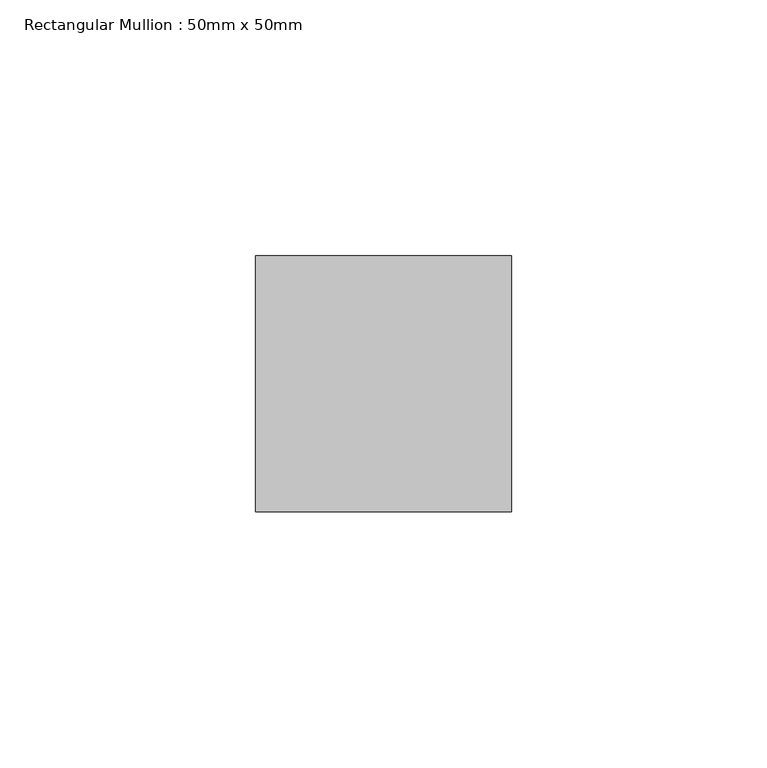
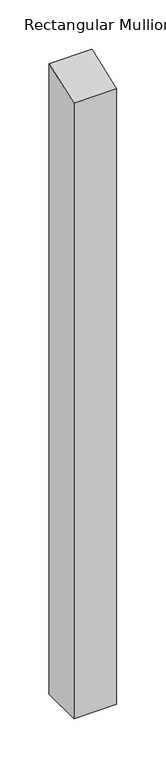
"""IFC4 building model written with IfcOpenShell, lengths in millimetres: member geometry, Rectangular Mullion : 50mm x 50mm."""

import ifcopenshell
import ifcopenshell.guid

model = None  # the IFC model being written
_history = None  # IfcOwnerHistory: only IFC2X3 demands one
_inside = {}  # id of a spatial element -> (the spatial element, [elements in it])
_under = {}  # id of a project, library or spatial element -> (it, [spatial elements below it])
_declared = {}  # id of a project -> (the project, [libraries it declares])
_typed = {}  # id of a type object -> (the type object, [elements of that type])
_made_of = {}  # id of a material, layer set ... -> (it, [elements and type objects made of it])


def new_model(schema):
    """Start an empty IFC model of exactly this schema.

    Asked for "IFC4X3", IfcOpenShell would pick the latest addendum, in which some entities
    have other attributes; the version numbers below select the first issue.
    IFC2X3 requires an IfcOwnerHistory on every rooted entity: one is made here for all.
    """
    global model, _history
    if schema == "IFC4X3":
        model = ifcopenshell.file(schema_version=(4, 3, 0, 0))
    else:
        model = ifcopenshell.file(schema=schema)
    _inside.clear()
    _under.clear()
    _declared.clear()
    _typed.clear()
    _made_of.clear()
    _history = None
    if model.schema == "IFC2X3":
        org = make("IfcOrganization", Name="unknown")
        user = make(
            "IfcPersonAndOrganization",
            ThePerson=make("IfcPerson", FamilyName="unknown"),
            TheOrganization=org,
        )
        app = make(
            "IfcApplication",
            ApplicationDeveloper=org,
            Version="unknown",
            ApplicationFullName="unknown",
            ApplicationIdentifier="unknown",
        )
        _history = make(
            "IfcOwnerHistory",
            OwningUser=user,
            OwningApplication=app,
            ChangeAction="ADDED",
            CreationDate=0,
        )
    return model


def make(cls, **values):
    """One entity of the class cls with the attributes given. An attribute that is None is left unset."""
    return model.create_entity(
        cls, **{name: value for name, value in values.items() if value is not None}
    )


def rooted(cls, **values):
    """An entity with a GlobalId (a new one), such as an element, a storey or a relation."""
    return make(cls, GlobalId=ifcopenshell.guid.new(), OwnerHistory=_history, **values)


def si_unit(unit_type, name, prefix=None):
    """IfcSIUnit, for example si_unit("LENGTHUNIT", "METRE", prefix="MILLI")."""
    return make("IfcSIUnit", UnitType=unit_type, Prefix=prefix, Name=name)


def assignment(units):
    """IfcUnitAssignment: the units of a project."""
    return None if units is None else make("IfcUnitAssignment", Units=units)


def point(xyz):
    """IfcCartesianPoint."""
    return None if xyz is None else make("IfcCartesianPoint", Coordinates=xyz)


def direction(xyz):
    """IfcDirection."""
    return None if xyz is None else make("IfcDirection", DirectionRatios=xyz)


def frame(location, z_axis=None, x_axis=None):
    """IfcAxis2Placement3D, a coordinate frame: its origin and axes. An axis left out is left unset."""
    return make(
        "IfcAxis2Placement3D",
        Location=point(location),
        Axis=direction(z_axis),
        RefDirection=direction(x_axis),
    )


def origin():
    """The frame at (0, 0, 0) with its axes left unset."""
    return frame((0.0, 0.0, 0.0))


def place(relative_to, where):
    """IfcLocalPlacement: puts the frame where relative to a parent placement (None: the world)."""
    return make(
        "IfcLocalPlacement", PlacementRelTo=relative_to, RelativePlacement=where
    )


def context(
    kind, dimensions, precision=None, world=None, true_north=None, identifier=None
):
    """IfcGeometricRepresentationContext, for example the 3D "Model" context."""
    return make(
        "IfcGeometricRepresentationContext",
        ContextIdentifier=identifier,
        ContextType=kind,
        CoordinateSpaceDimension=dimensions,
        Precision=precision,
        WorldCoordinateSystem=world,
        TrueNorth=true_north,
    )


def project(units=None, contexts=None):
    """IfcProject with its units and contexts."""
    return rooted(
        "IfcProject",
        Name="project",
        RepresentationContexts=contexts,
        UnitsInContext=assignment(units),
    )


def spatial(cls, under=None, at=None, **own):
    """A site, building, storey or space (cls), placed at a placement, below another one or the project."""
    s = rooted(cls, ObjectPlacement=at, **own)
    if under is not None:
        _under.setdefault(under.id(), (under, []))[1].append(s)
    return s


def polyline(points):
    """IfcPolyline through the points."""
    return make("IfcPolyline", Points=[point(p) for p in points])


def outline(outer, holes=None, kind="AREA"):
    """IfcArbitraryClosedProfileDef: a profile drawn as a closed curve; with holes, ...WithVoids."""
    if holes is None:
        return make("IfcArbitraryClosedProfileDef", ProfileType=kind, OuterCurve=outer)
    return make(
        "IfcArbitraryProfileDefWithVoids",
        ProfileType=kind,
        OuterCurve=outer,
        InnerCurves=holes,
    )


def extrude(swept, where, along, depth):
    """IfcExtrudedAreaSolid: the profile swept, set in the frame where, extruded along a direction by depth."""
    return make(
        "IfcExtrudedAreaSolid",
        SweptArea=swept,
        Position=where,
        ExtrudedDirection=direction(along),
        Depth=depth,
    )


def shape(context_of_items, identifier, shape_type, items):
    """IfcShapeRepresentation: the items that make up one representation, for example the "Body"."""
    return make(
        "IfcShapeRepresentation",
        ContextOfItems=context_of_items,
        RepresentationIdentifier=identifier,
        RepresentationType=shape_type,
        Items=items,
    )


def source(mapping_origin, context_of_items, identifier, shape_type, items):
    """IfcRepresentationMap: a shape defined once, which mapped items show again and again."""
    return make(
        "IfcRepresentationMap",
        MappingOrigin=mapping_origin,
        MappedRepresentation=shape(context_of_items, identifier, shape_type, items),
    )


def transform(
    local_origin,
    x_axis=None,
    y_axis=None,
    z_axis=None,
    scale=None,
    scale2=None,
    scale3=None,
    uniform=True,
):
    """IfcCartesianTransformationOperator3D, or its non-uniform kind. x_axis, y_axis, z_axis: its Axis1, 2, 3."""
    if uniform:
        return make(
            "IfcCartesianTransformationOperator3D",
            Axis1=direction(x_axis),
            Axis2=direction(y_axis),
            LocalOrigin=point(local_origin),
            Scale=scale,
            Axis3=direction(z_axis),
        )
    return make(
        "IfcCartesianTransformationOperator3DnonUniform",
        Axis1=direction(x_axis),
        Axis2=direction(y_axis),
        LocalOrigin=point(local_origin),
        Scale=scale,
        Axis3=direction(z_axis),
        Scale2=scale2,
        Scale3=scale3,
    )


def mapped(mapping_source, mapping_target):
    """IfcMappedItem: shows the shape of a source again, moved by a transform."""
    return make(
        "IfcMappedItem", MappingSource=mapping_source, MappingTarget=mapping_target
    )


def made_of(thing, what):
    """Note that an element or type object is made of a material, layer set ...; save() writes the relation."""
    if what is not None:
        _made_of.setdefault(what.id(), (what, []))[1].append(thing)
    return thing


def element(
    cls,
    number,
    at=None,
    inside=None,
    cuts=None,
    type_object=None,
    material=None,
    context=None,
    identifier="Body",
    shape_type=None,
    held_by="IfcProductDefinitionShape",
    body=None,
    shapes=None,
    **own,
):
    """One element of the class cls, such as IfcWall. Its Tag is "e" and its number.

    at: its placement. inside: the storey or other place that contains it. cuts: it is an
    opening in that element (IfcRelVoidsElement). A single representation is given by context,
    identifier, shape_type and body (its items); several are given by shapes. held_by: the class
    of the entity that holds the representations. save() writes the other relations.
    """
    e = rooted(cls, Tag="e%d" % number, ObjectPlacement=at, **own)
    if body is not None:
        shapes = [shape(context, identifier, shape_type, body)]
    if shapes is not None:
        e.Representation = make(held_by, Representations=shapes)
    if inside is not None:
        _inside.setdefault(inside.id(), (inside, []))[1].append(e)
    if cuts is not None:
        rooted(
            "IfcRelVoidsElement", RelatingBuildingElement=cuts, RelatedOpeningElement=e
        )
    if type_object is not None:
        _typed.setdefault(type_object.id(), (type_object, []))[1].append(e)
    return made_of(e, material)


def aggregate(whole, parts):
    """IfcRelAggregates: a whole, such as a stair, and the parts it consists of."""
    return rooted("IfcRelAggregates", RelatingObject=whole, RelatedObjects=parts)


def save(model, path):
    """Write the relations noted so far, then the file.

    IfcRelAggregates (storeys below a building ...), IfcRelContainedInSpatialStructure (elements
    in a storey), IfcRelDefinesByType, IfcRelAssociatesMaterial and IfcRelDeclares: one each for
    every whole, place, type object, material and project.
    """
    for whole, parts in _under.values():
        aggregate(whole, parts)
    for where, things in _inside.values():
        rooted(
            "IfcRelContainedInSpatialStructure",
            RelatedElements=things,
            RelatingStructure=where,
        )
    for kind, things in _typed.values():
        rooted("IfcRelDefinesByType", RelatedObjects=things, RelatingType=kind)
    for what, things in _made_of.values():
        rooted("IfcRelAssociatesMaterial", RelatedObjects=things, RelatingMaterial=what)
    for by, libraries in _declared.values():
        rooted("IfcRelDeclares", RelatingContext=by, RelatedDefinitions=libraries)
    model.write(path)


def rectangular_mullion_50mm_x_50mm_08f6a283(model_context):
    return source(origin(), model_context, "Body", "SweptSolid", [
        extrude(outline(polyline([(-25.0, -9.3435582), (25.0, 9.3435582), (25.0, -770.6466905), (-25.0, -770.6466905), (-25.0, -9.3435582)])), frame((-50.0, 0.0, 0.0), z_axis=(1.0, 0.0, 0.0), x_axis=(0.0, 1.0, 0.0)), (0.0, 0.0, 1.0), 50.0),
    ])


if __name__ == "__main__":
    model = new_model("IFC4")
    model_context = context("Model", 3, world=origin())
    ifc_project = project(units=[si_unit("LENGTHUNIT", "METRE", prefix="MILLI")], contexts=[model_context])
    site = spatial("IfcSite", under=ifc_project)
    building = spatial("IfcBuilding", under=site)
    placement = place(None, origin())
    rectangular_mullion_50mm_x_50mm_shape = rectangular_mullion_50mm_x_50mm_08f6a283(model_context)
    element("IfcMember", 1, ObjectType="Rectangular Mullion : 50mm x 50mm", at=placement, inside=building, context=model_context, shape_type="MappedRepresentation", body=[
        mapped(rectangular_mullion_50mm_x_50mm_shape, transform((0.0, 0.0, 0.0), x_axis=(1.0, 0.0, 0.0), y_axis=(0.0, 1.0, 0.0), z_axis=(0.0, 0.0, 1.0))),
    ])
    save(model, "model.ifc")
